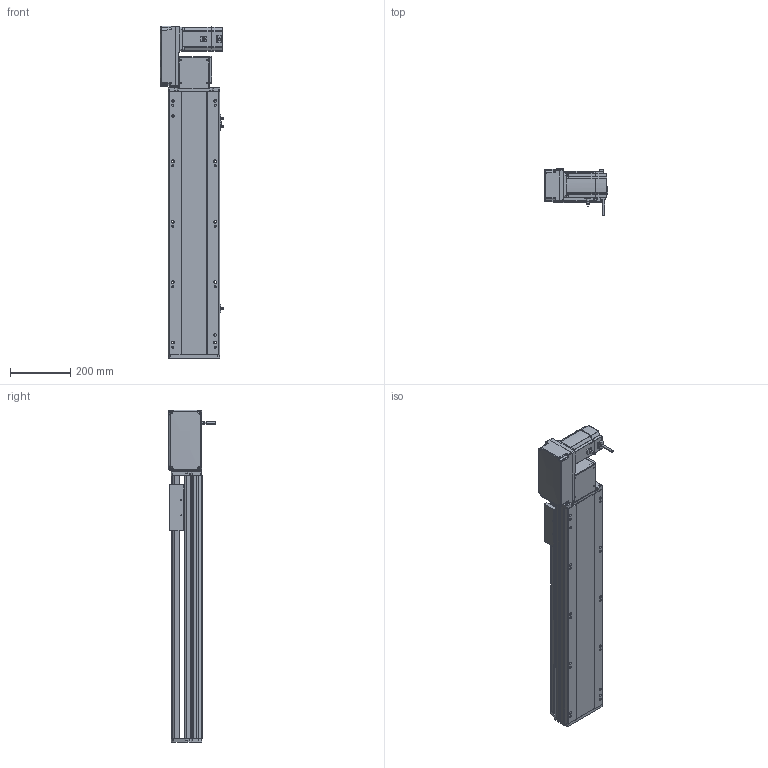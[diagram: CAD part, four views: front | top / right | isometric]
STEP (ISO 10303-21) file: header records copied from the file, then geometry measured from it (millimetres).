
FILE_DESCRIPTION (( 'STEP AP214' ), '1' );
FILE_NAME ('RTB17S-XX-600-L-M75-C4.STEP', '2025-12-12T00:09:37', ( '' ), ( '' ), 'SwSTEP 2.0', 'SolidWorks 2018', '' );
FILE_SCHEMA (( 'AUTOMOTIVE_DESIGN' ));
Length unit declared in the file: millimetre
Products named in the file (15): RTB22S-GY-008-M75--萇儂啣^RTB17S-L-々湍釱蚾饜-750W_RTB17S-XX-XX-L-M75-C4; RTB17S-賑釱^RTB17S-XX-XX-L-M75-C4; RTB17S-L-004-賑釱^RTB17S-賑釱_RTB17S-XX-XX-L-M75-C4; RTB17S-L-001-耜醱啣^RTB17S-XX-XX-L-M75-C4; EE672^RTB17S-XX-XX-L-M75-C4; RTB22S-GY-005P^RTB17S-L-々湍釱蚾饜-750W_RTB17S-XX-XX-L-M75-C4; RTB17S-L-々湍釱蚾饜-750W^RTB17S-XX-XX-L-M75-C4; RTB22S-GY-018P^RTB17S-L-々湍釱蚾饜-750W_RTB17S-XX-XX-L-M75-C4; RTB22S-GY-017P^RTB17S-L-々湍釱蚾饜-750W_RTB17S-XX-XX-L-M75-C4; RTB17-R-011菁釱^RTB17S-XX-XX-L-M75-C4; RTH13-BL-012覜茼え俋离^RTB17S-賑釱_RTB17S-XX-XX-L-M75-C4; RMP17S-L-014-T20-P75--々湍釱^RTB17S-L-々湍釱蚾饜-750W_RTB17S-XX-XX-L-M75-C4; RTB17S-XX-600-L-M75-C4; 750W萇儂^RTB17S-XX-XX-L-M75-C4; RTB17S-L-007奻裔^RTB17S-XX-XX-L-M75-C4
Assembly tree (17 placements, depth 3):
  RTB17S-XX-600-L-M75-C4
    RTB17-R-011菁釱^RTB17S-XX-XX-L-M75-C4
    EE672^RTB17S-XX-XX-L-M75-C4  x3
    RTB17S-L-001-耜醱啣^RTB17S-XX-XX-L-M75-C4
    RTB17S-賑釱^RTB17S-XX-XX-L-M75-C4
      RTB17S-L-004-賑釱^RTB17S-賑釱_RTB17S-XX-XX-L-M75-C4
      RTH13-BL-012覜茼え俋离^RTB17S-賑釱_RTB17S-XX-XX-L-M75-C4
    RTB17S-L-007奻裔^RTB17S-XX-XX-L-M75-C4
    750W萇儂^RTB17S-XX-XX-L-M75-C4
    RTB17S-L-々湍釱蚾饜-750W^RTB17S-XX-XX-L-M75-C4
      RMP17S-L-014-T20-P75--々湍釱^RTB17S-L-々湍釱蚾饜-750W_RTB17S-XX-XX-L-M75-C4
      RTB22S-GY-005P^RTB17S-L-々湍釱蚾饜-750W_RTB17S-XX-XX-L-M75-C4
      RTB22S-GY-017P^RTB17S-L-々湍釱蚾饜-750W_RTB17S-XX-XX-L-M75-C4  x2
      RTB22S-GY-008-M75--萇儂啣^RTB17S-L-々湍釱蚾饜-750W_RTB17S-XX-XX-L-M75-C4
      RTB22S-GY-018P^RTB17S-L-々湍釱蚾饜-750W_RTB17S-XX-XX-L-M75-C4
Bounding box: 210.4 x 152.7 x 1099 mm (x, y, z)
Volume: 9703296.7 mm3; surface area: 1578688.1 mm2
Topology: 17 solids, 17 shells, 2057 faces, 5674 edges, 3662 vertices
Faces by surface type: plane 966, cylinder 675, bspline 294, cone 110, sphere 8, torus 4
Entity records: 56566 total; most frequent: CARTESIAN_POINT 16538, ORIENTED_EDGE 8192, DIRECTION 7682, EDGE_CURVE 4096, AXIS2_PLACEMENT_3D 2682, VERTEX_POINT 2666, LINE 2318, VECTOR 2318
